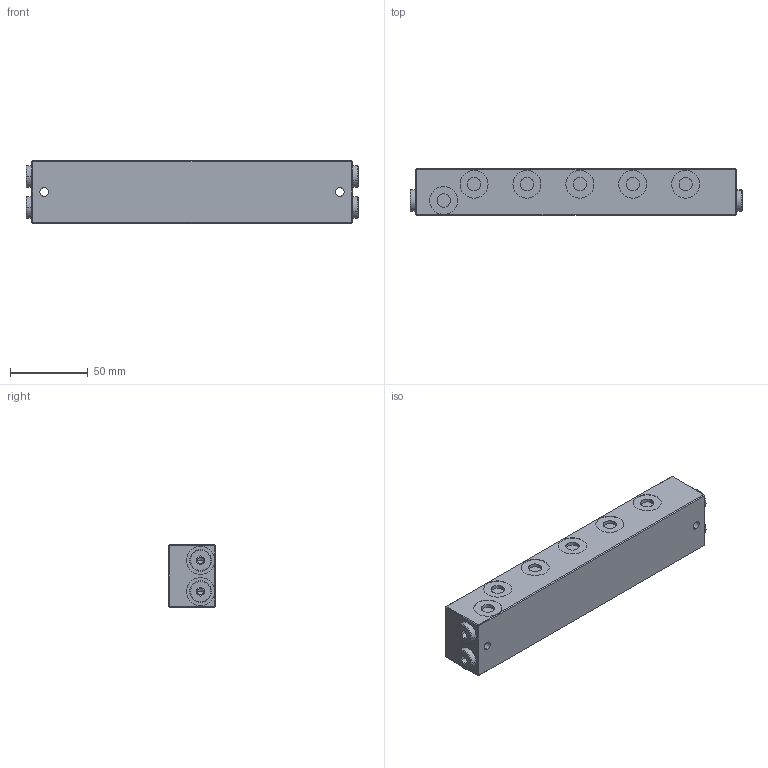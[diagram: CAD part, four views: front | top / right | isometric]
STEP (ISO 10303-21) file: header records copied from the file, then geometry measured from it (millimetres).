
FILE_DESCRIPTION (( 'STEP AP214' ), '1' );
FILE_NAME ('B3_5.STEP', '2017-05-01T13:31:53', ( '' ), ( '' ), 'SwSTEP 2.0', 'SolidWorks 2016', '' );
FILE_SCHEMA (( 'AUTOMOTIVE_DESIGN' ));
Length unit declared in the file: millimetre
Products named in the file (1): B3_5
Bounding box: 213.4 x 30 x 40 mm (x, y, z)
Volume: 244065.5 mm3; surface area: 36433.6 mm2
Topology: 5 solids, 9 shells, 343 faces, 722 edges, 466 vertices
Faces by surface type: cylinder 178, plane 141, cone 16, torus 8
Entity records: 12624 total; most frequent: DIRECTION 1812, CARTESIAN_POINT 1532, ORIENTED_EDGE 1444, AXIS2_PLACEMENT_3D 746, EDGE_CURVE 722, VERTEX_POINT 466, EDGE_LOOP 432, CIRCLE 402
